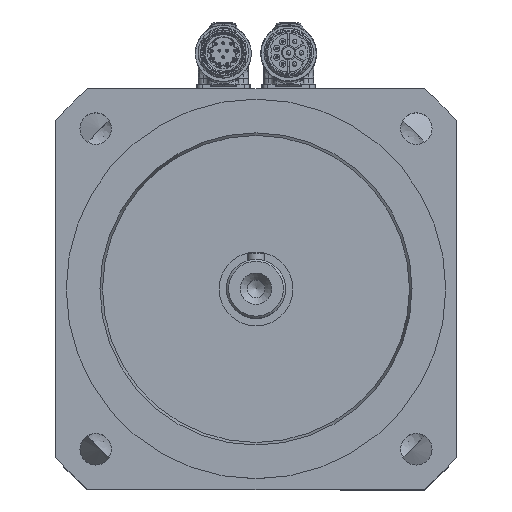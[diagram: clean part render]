
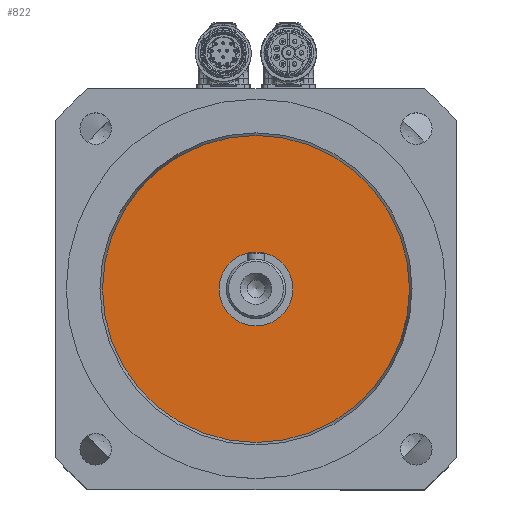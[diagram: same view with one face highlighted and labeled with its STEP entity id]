
A CAD part, top view. The second image highlights one B-rep face of the part: STEP entity #822.
In plain terms, the highlighted planar face has unit normal (0, 0, 1).
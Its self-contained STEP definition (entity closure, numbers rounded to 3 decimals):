
#639=CARTESIAN_POINT('',(17.5,0.,240.5));
#640=VERTEX_POINT('',#639);
#641=CARTESIAN_POINT('',(0.0,0.0,240.5));
#642=DIRECTION('',(0.0,0.0,-1.0));
#643=DIRECTION('',(-1.0,0.0,0.0));
#644=AXIS2_PLACEMENT_3D('',#641,#642,#643);
#645=CIRCLE('',#644,17.5);
#646=EDGE_CURVE('',#640,#640,#645,.T.);
#803=CARTESIAN_POINT('',(0.0,0.0,240.5));
#804=DIRECTION('',(0.0,0.0,-1.0));
#805=DIRECTION('',(-1.0,0.0,0.0));
#806=AXIS2_PLACEMENT_3D('',#803,#804,#805);
#807=PLANE('',#806);
#808=CARTESIAN_POINT('',(72.794,0.,240.5));
#809=VERTEX_POINT('',#808);
#810=CARTESIAN_POINT('',(0.0,0.0,240.5));
#811=DIRECTION('',(0.0,0.0,1.0));
#812=DIRECTION('',(-1.0,0.0,0.0));
#813=AXIS2_PLACEMENT_3D('',#810,#811,#812);
#814=CIRCLE('',#813,72.794);
#815=EDGE_CURVE('',#809,#809,#814,.T.);
#816=ORIENTED_EDGE('',*,*,#815,.T.);
#817=EDGE_LOOP('',(#816));
#818=FACE_OUTER_BOUND('',#817,.T.);
#819=ORIENTED_EDGE('',*,*,#646,.T.);
#820=EDGE_LOOP('',(#819));
#821=FACE_BOUND('',#820,.T.);
#822=ADVANCED_FACE('',(#818,#821),#807,.F.);
